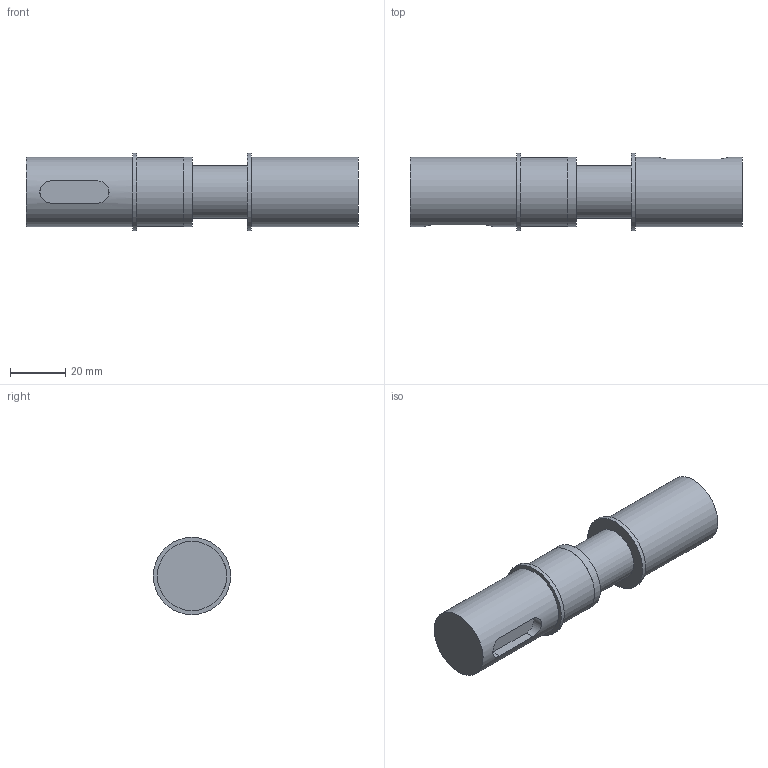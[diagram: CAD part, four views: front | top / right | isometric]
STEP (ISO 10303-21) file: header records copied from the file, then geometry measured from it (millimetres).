
FILE_DESCRIPTION(/* description */ (''),/* implementation_level */ '2;1');
FILE_NAME(/* name */ 'F:\Sensorik\Standard_Messflansche\High-Speed-Wellen_1-500Nm\Mit_Passfeder\Freigabe_HSMW_50Nm.stp',/* time_stamp */ '2019-10-30T15:25:53+01:00',/* author */ ('lander'),/* organization */ (''),/* preprocessor_version */ 'ST-DEVELOPER v16.5',/* originating_system */ 'Autodesk Inventor 2017',/* authorisation */ '');
FILE_SCHEMA (('AUTOMOTIVE_DESIGN { 1 0 10303 214 3 1 1 }'));
Length unit declared in the file: millimetre
Products named in the file (1): Freigabe_Messwelle
Bounding box: 120 x 28 x 28 mm (x, y, z)
Volume: 53651.2 mm3; surface area: 11380.3 mm2
Topology: 1 solids, 1 shells, 25 faces, 50 edges, 34 vertices
Faces by surface type: plane 14, cylinder 11
Full cylindrical faces by diameter (mm): 19 x1, 24.9 x1, 25 x3, 28 x2
Entity records: 712 total; most frequent: CARTESIAN_POINT 174, DIRECTION 104, ORIENTED_EDGE 84, AXIS2_PLACEMENT_3D 44, EDGE_CURVE 42, EDGE_LOOP 40, VERTEX_POINT 34, FACE_OUTER_BOUND 25
